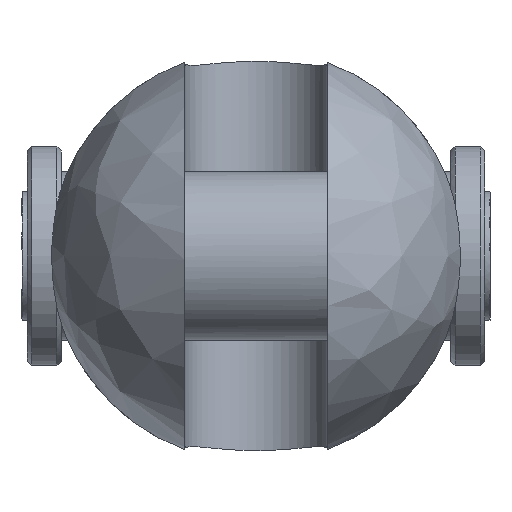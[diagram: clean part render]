
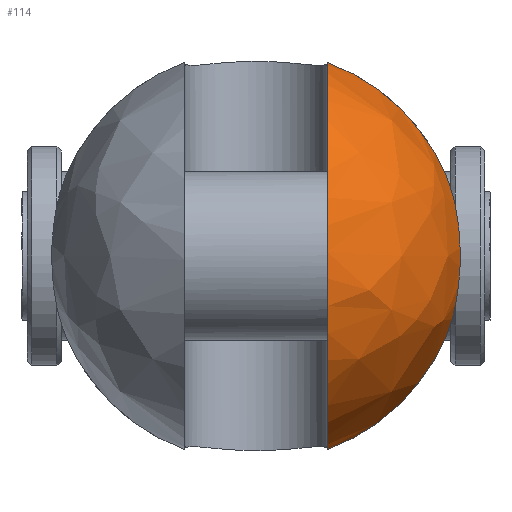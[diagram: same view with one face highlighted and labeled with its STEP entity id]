
A CAD part, left-side view. The second image highlights one B-rep face of the part: STEP entity #114.
In plain terms, the highlighted free-form (B-spline) face has degree [2, 2] with [9, 5] control points.
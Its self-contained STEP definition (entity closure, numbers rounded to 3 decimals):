
#114=ADVANCED_FACE('',(#202),#1530,.T.);
#202=FACE_OUTER_BOUND('',#302,.T.);
#302=EDGE_LOOP('',(#744,#745,#746,#747));
#744=ORIENTED_EDGE('',*,*,#998,.T.);
#745=ORIENTED_EDGE('',*,*,#995,.F.);
#746=ORIENTED_EDGE('',*,*,#1012,.T.);
#747=ORIENTED_EDGE('',*,*,#990,.F.);
#990=EDGE_CURVE('',#1420,#1421,#1252,.T.);
#995=EDGE_CURVE('',#1428,#1429,#1253,.T.);
#998=EDGE_CURVE('',#1420,#1429,#1255,.T.);
#1012=EDGE_CURVE('',#1428,#1421,#1121,.T.);
#1121=B_SPLINE_CURVE_WITH_KNOTS('',3,(#3523,#3524,#3525,#3526,#3527,#3528,
#3529,#3530,#3531,#3532,#3533,#3534,#3535,#3536),.UNSPECIFIED.,.F.,.F.,
(4,2,2,2,2,2,4),(0.,3.032,6.669,10.306,
13.942,17.579,20.611),.UNSPECIFIED.);
#1252=(
BOUNDED_CURVE()
B_SPLINE_CURVE(2,(#3465,#3466,#3467),.UNSPECIFIED.,.F.,.F.)
B_SPLINE_CURVE_WITH_KNOTS((3,3),(0.,20.308),.UNSPECIFIED.)
CURVE()
GEOMETRIC_REPRESENTATION_ITEM()
RATIONAL_B_SPLINE_CURVE((1.,0.915,1.))
REPRESENTATION_ITEM('')
);
#1253=(
BOUNDED_CURVE()
B_SPLINE_CURVE(2,(#3476,#3477,#3478),.UNSPECIFIED.,.F.,.F.)
B_SPLINE_CURVE_WITH_KNOTS((3,3),(0.,20.308),.UNSPECIFIED.)
CURVE()
GEOMETRIC_REPRESENTATION_ITEM()
RATIONAL_B_SPLINE_CURVE((1.,0.915,1.))
REPRESENTATION_ITEM('')
);
#1255=(
BOUNDED_CURVE()
B_SPLINE_CURVE(2,(#3484,#3485,#3486,#3487,#3488),.UNSPECIFIED.,.F.,.F.)
B_SPLINE_CURVE_WITH_KNOTS((3,2,3),(-72.188,-36.094,
0.),.UNSPECIFIED.)
CURVE()
GEOMETRIC_REPRESENTATION_ITEM()
RATIONAL_B_SPLINE_CURVE((1.,0.707,1.,0.707,1.))
REPRESENTATION_ITEM('')
);
#1420=VERTEX_POINT('',#3297);
#1421=VERTEX_POINT('',#3298);
#1428=VERTEX_POINT('',#3305);
#1429=VERTEX_POINT('',#3306);
#1530=(
BOUNDED_SURFACE()
B_SPLINE_SURFACE(2,2,((#3169,#3170,#3171,#3172,#3173),(#3174,#3175,#3176,
#3177,#3178),(#3179,#3180,#3181,#3182,#3183),(#3184,#3185,#3186,#3187,#3188),
(#3189,#3190,#3191,#3192,#3193),(#3194,#3195,#3196,#3197,#3198),(#3199,
#3200,#3201,#3202,#3203),(#3204,#3205,#3206,#3207,#3208),(#3209,#3210,#3211,
#3212,#3213)),.UNSPECIFIED.,.T.,.F.,.F.)
B_SPLINE_SURFACE_WITH_KNOTS((3,2,2,2,3),(3,2,3),(0.,38.485,76.969,
115.454,153.938),(0.,38.485,76.969),
 .UNSPECIFIED.)
GEOMETRIC_REPRESENTATION_ITEM()
RATIONAL_B_SPLINE_SURFACE(((1.,0.707,1.,0.707,1.),
(0.707,0.5,0.707,0.5,0.707),(1.,0.707,
1.,0.707,1.),(0.707,0.5,0.707,0.5,0.707),
(1.,0.707,1.,0.707,1.),(0.707,0.5,0.707,
0.5,0.707),(1.,0.707,1.,0.707,1.),(0.707,
0.5,0.707,0.5,0.707),(1.,0.707,1.,0.707,
1.)))
REPRESENTATION_ITEM('')
SURFACE()
);
#3169=CARTESIAN_POINT('',(-35.,0.,0.));
#3170=CARTESIAN_POINT('',(-35.,24.5,0.));
#3171=CARTESIAN_POINT('',(-10.5,24.5,0.));
#3172=CARTESIAN_POINT('',(14.,24.5,0.));
#3173=CARTESIAN_POINT('',(14.,0.,0.));
#3174=CARTESIAN_POINT('',(-35.,0.,0.));
#3175=CARTESIAN_POINT('',(-35.,24.5,24.5));
#3176=CARTESIAN_POINT('',(-10.5,24.5,24.5));
#3177=CARTESIAN_POINT('',(14.,24.5,24.5));
#3178=CARTESIAN_POINT('',(14.,0.,0.));
#3179=CARTESIAN_POINT('',(-35.,0.,0.));
#3180=CARTESIAN_POINT('',(-35.,0.,24.5));
#3181=CARTESIAN_POINT('',(-10.5,0.,24.5));
#3182=CARTESIAN_POINT('',(14.,0.,24.5));
#3183=CARTESIAN_POINT('',(14.,0.,0.));
#3184=CARTESIAN_POINT('',(-35.,0.,0.));
#3185=CARTESIAN_POINT('',(-35.,-24.5,24.5));
#3186=CARTESIAN_POINT('',(-10.5,-24.5,24.5));
#3187=CARTESIAN_POINT('',(14.,-24.5,24.5));
#3188=CARTESIAN_POINT('',(14.,0.,0.));
#3189=CARTESIAN_POINT('',(-35.,0.,0.));
#3190=CARTESIAN_POINT('',(-35.,-24.5,0.));
#3191=CARTESIAN_POINT('',(-10.5,-24.5,0.));
#3192=CARTESIAN_POINT('',(14.,-24.5,0.));
#3193=CARTESIAN_POINT('',(14.,0.,0.));
#3194=CARTESIAN_POINT('',(-35.,0.,0.));
#3195=CARTESIAN_POINT('',(-35.,-24.5,-24.5));
#3196=CARTESIAN_POINT('',(-10.5,-24.5,-24.5));
#3197=CARTESIAN_POINT('',(14.,-24.5,-24.5));
#3198=CARTESIAN_POINT('',(14.,0.,0.));
#3199=CARTESIAN_POINT('',(-35.,0.,0.));
#3200=CARTESIAN_POINT('',(-35.,0.,-24.5));
#3201=CARTESIAN_POINT('',(-10.5,0.,-24.5));
#3202=CARTESIAN_POINT('',(14.,0.,-24.5));
#3203=CARTESIAN_POINT('',(14.,0.,0.));
#3204=CARTESIAN_POINT('',(-35.,0.,0.));
#3205=CARTESIAN_POINT('',(-35.,24.5,-24.5));
#3206=CARTESIAN_POINT('',(-10.5,24.5,-24.5));
#3207=CARTESIAN_POINT('',(14.,24.5,-24.5));
#3208=CARTESIAN_POINT('',(14.,0.,0.));
#3209=CARTESIAN_POINT('',(-35.,0.,0.));
#3210=CARTESIAN_POINT('',(-35.,24.5,0.));
#3211=CARTESIAN_POINT('',(-10.5,24.5,0.));
#3212=CARTESIAN_POINT('',(14.,24.5,0.));
#3213=CARTESIAN_POINT('',(14.,0.,0.));
#3297=CARTESIAN_POINT('',(-10.5,-8.5,22.978));
#3298=CARTESIAN_POINT('',(-10.5,-22.683,9.26));
#3305=CARTESIAN_POINT('',(-10.5,-22.683,-9.26));
#3306=CARTESIAN_POINT('',(-10.5,-8.5,-22.978));
#3465=CARTESIAN_POINT('',(-10.5,-8.5,22.978));
#3466=CARTESIAN_POINT('',(-10.5,-18.609,19.239));
#3467=CARTESIAN_POINT('',(-10.5,-22.683,9.26));
#3476=CARTESIAN_POINT('',(-10.5,-22.683,-9.26));
#3477=CARTESIAN_POINT('',(-10.5,-18.609,-19.239));
#3478=CARTESIAN_POINT('',(-10.5,-8.5,-22.978));
#3484=CARTESIAN_POINT('',(-10.5,-8.5,22.978));
#3485=CARTESIAN_POINT('',(-33.478,-8.5,22.978));
#3486=CARTESIAN_POINT('',(-33.478,-8.5,0.));
#3487=CARTESIAN_POINT('',(-33.478,-8.5,-22.978));
#3488=CARTESIAN_POINT('',(-10.5,-8.5,-22.978));
#3523=CARTESIAN_POINT('',(-10.5,-22.683,-9.26));
#3524=CARTESIAN_POINT('',(-11.153,-22.985,-8.52));
#3525=CARTESIAN_POINT('',(-11.723,-23.243,-7.71));
#3526=CARTESIAN_POINT('',(-12.736,-23.697,-5.92));
#3527=CARTESIAN_POINT('',(-13.217,-23.908,-4.778));
#3528=CARTESIAN_POINT('',(-13.849,-24.184,-2.393));
#3529=CARTESIAN_POINT('',(-14.,-24.249,-1.149));
#3530=CARTESIAN_POINT('',(-14.,-24.249,1.149));
#3531=CARTESIAN_POINT('',(-13.849,-24.184,2.393));
#3532=CARTESIAN_POINT('',(-13.217,-23.908,4.778));
#3533=CARTESIAN_POINT('',(-12.736,-23.697,5.92));
#3534=CARTESIAN_POINT('',(-11.723,-23.243,7.71));
#3535=CARTESIAN_POINT('',(-11.153,-22.985,8.52));
#3536=CARTESIAN_POINT('',(-10.5,-22.683,9.26));
